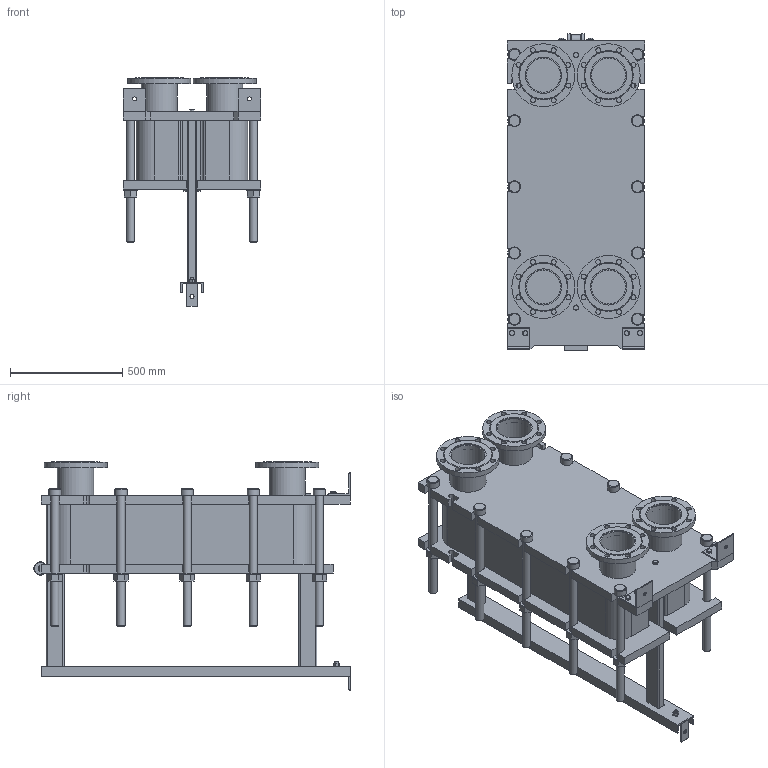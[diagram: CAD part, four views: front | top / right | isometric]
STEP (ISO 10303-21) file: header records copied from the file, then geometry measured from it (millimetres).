
FILE_DESCRIPTION(/* description */ (''),/* implementation_level */ '2;1');
FILE_NAME(/* name */ 'C:\Users\zhuro\Desktop\ENCO\TO\ЭН-041\ЭН-0,5-041-77-1.stp',/* time_stamp */ '2022-06-06T10:55:55+03:00',/* author */ ('zhuro'),/* organization */ (''),/* preprocessor_version */ 'ST-DEVELOPER v18.1',/* originating_system */ 'Autodesk Inventor 2022',/* authorisation */ '');
FILE_SCHEMA (('AUTOMOTIVE_DESIGN { 1 0 10303 214 3 1 1 }'));
Length unit declared in the file: millimetre
Products named in the file (1): ЭН-0,5-041-77-1
Bounding box: 610 x 1406.5 x 1017.5 mm (x, y, z)
Volume: 228268346.2 mm3; surface area: 8517380 mm2
Topology: 52 solids, 52 shells, 711 faces, 1696 edges, 1094 vertices
Faces by surface type: plane 487, cylinder 177, cone 41, torus 6
Full cylindrical faces by diameter (mm): 8 x4, 10 x2, 16 x8, 18 x3, 22 x32, 36 x24, 50 x1, 54 x10, 60 x12, 151 x4, 161 x8, 280 x4
Entity records: 22667 total; most frequent: CARTESIAN_POINT 5230, DIRECTION 3644, ORIENTED_EDGE 3392, EDGE_CURVE 1696, AXIS2_PLACEMENT_3D 1272, LINE 1100, VECTOR 1100, VERTEX_POINT 1094
